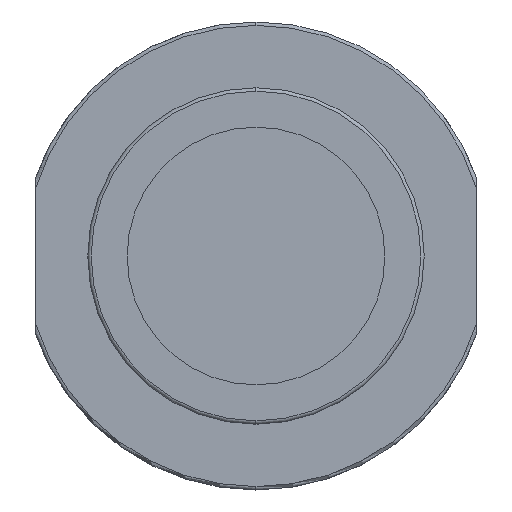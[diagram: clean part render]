
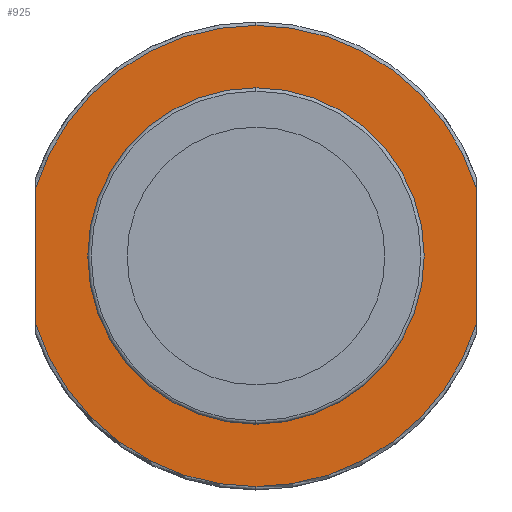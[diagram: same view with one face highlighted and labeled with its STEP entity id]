
A CAD part, left-side view. The second image highlights one B-rep face of the part: STEP entity #925.
In plain terms, the highlighted planar face has unit normal (-1, 0, 0).
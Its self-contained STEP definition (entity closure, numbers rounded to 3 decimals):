
#28 = EDGE_CURVE ( 'NONE', #196, #941, #1164, .T. ) ;
#38 = CIRCLE ( 'NONE', #156, 34. ) ;
#61 = DIRECTION ( 'NONE',  ( 0., 1., 0. ) ) ;
#93 = EDGE_CURVE ( 'NONE', #1160, #915, #405, .T. ) ;
#96 = DIRECTION ( 'NONE',  ( 0., 1., 0. ) ) ;
#106 = CARTESIAN_POINT ( 'NONE',  ( 40., 0., 0. ) ) ;
#138 = DIRECTION ( 'NONE',  ( 0., 0., 1. ) ) ;
#156 = AXIS2_PLACEMENT_3D ( 'NONE', #1676, #524, #96 ) ;
#196 = VERTEX_POINT ( 'NONE', #214 ) ;
#206 = ORIENTED_EDGE ( 'NONE', *, *, #93, .F. ) ;
#214 = CARTESIAN_POINT ( 'NONE',  ( 40., 24.8, 0. ) ) ;
#216 = CARTESIAN_POINT ( 'NONE',  ( 40., 0., 0. ) ) ;
#233 = VERTEX_POINT ( 'NONE', #1763 ) ;
#276 = CARTESIAN_POINT ( 'NONE',  ( 40., 0., -34. ) ) ;
#303 = DIRECTION ( 'NONE',  ( 1., 0., 0. ) ) ;
#307 = EDGE_CURVE ( 'NONE', #941, #196, #1057, .T. ) ;
#385 = DIRECTION ( 'NONE',  ( 1., 0., 0. ) ) ;
#405 = CIRCLE ( 'NONE', #1137, 34. ) ;
#406 = VERTEX_POINT ( 'NONE', #1064 ) ;
#409 = CARTESIAN_POINT ( 'NONE',  ( 40., -32.5, -9.987 ) ) ;
#413 = ORIENTED_EDGE ( 'NONE', *, *, #1395, .T. ) ;
#429 = CARTESIAN_POINT ( 'NONE',  ( 40., 0., 0. ) ) ;
#433 = EDGE_CURVE ( 'NONE', #915, #406, #38, .T. ) ;
#441 = DIRECTION ( 'NONE',  ( 0., 1., 0. ) ) ;
#460 = VERTEX_POINT ( 'NONE', #1097 ) ;
#481 = VECTOR ( 'NONE', #800, 1000. ) ;
#524 = DIRECTION ( 'NONE',  ( 1., 0., 0. ) ) ;
#530 = FACE_BOUND ( 'NONE', #1795, .T. ) ;
#543 = EDGE_CURVE ( 'NONE', #460, #770, #1392, .T. ) ;
#561 = PLANE ( 'NONE',  #1793 ) ;
#563 = CARTESIAN_POINT ( 'NONE',  ( 40., 29.4, 0. ) ) ;
#590 = EDGE_LOOP ( 'NONE', ( #1548, #1523, #1508, #413, #1768, #206 ) ) ;
#593 = LINE ( 'NONE', #727, #1304 ) ;
#598 = DIRECTION ( 'NONE',  ( 1., 0., 0. ) ) ;
#648 = CARTESIAN_POINT ( 'NONE',  ( 40., -32.5, 9.987 ) ) ;
#679 = AXIS2_PLACEMENT_3D ( 'NONE', #429, #303, #441 ) ;
#716 = EDGE_CURVE ( 'NONE', #1160, #770, #1343, .T. ) ;
#727 = CARTESIAN_POINT ( 'NONE',  ( 40., 32.5, 0. ) ) ;
#770 = VERTEX_POINT ( 'NONE', #648 ) ;
#800 = DIRECTION ( 'NONE',  ( 0., 0., 1. ) ) ;
#881 = DIRECTION ( 'NONE',  ( 0., 0., -1. ) ) ;
#915 = VERTEX_POINT ( 'NONE', #276 ) ;
#925 = ADVANCED_FACE ( 'NONE', ( #1100, #530 ), #561, .T. ) ;
#941 = VERTEX_POINT ( 'NONE', #1128 ) ;
#949 = CARTESIAN_POINT ( 'NONE',  ( 40., -32.5, 0. ) ) ;
#989 = AXIS2_PLACEMENT_3D ( 'NONE', #106, #385, #1095 ) ;
#1057 = CIRCLE ( 'NONE', #1532, 24.8 ) ;
#1058 = DIRECTION ( 'NONE',  ( 1., 0., 0. ) ) ;
#1064 = CARTESIAN_POINT ( 'NONE',  ( 40., 32.5, -9.987 ) ) ;
#1068 = ORIENTED_EDGE ( 'NONE', *, *, #307, .T. ) ;
#1095 = DIRECTION ( 'NONE',  ( 0., 1., 0. ) ) ;
#1097 = CARTESIAN_POINT ( 'NONE',  ( 40., 0., 34. ) ) ;
#1100 = FACE_OUTER_BOUND ( 'NONE', #590, .T. ) ;
#1113 = AXIS2_PLACEMENT_3D ( 'NONE', #1303, #1442, #1740 ) ;
#1128 = CARTESIAN_POINT ( 'NONE',  ( 40., -24.8, 0. ) ) ;
#1137 = AXIS2_PLACEMENT_3D ( 'NONE', #1318, #598, #1177 ) ;
#1160 = VERTEX_POINT ( 'NONE', #409 ) ;
#1164 = CIRCLE ( 'NONE', #679, 24.8 ) ;
#1177 = DIRECTION ( 'NONE',  ( 0., 1., 0. ) ) ;
#1303 = CARTESIAN_POINT ( 'NONE',  ( 40., 0., 0. ) ) ;
#1304 = VECTOR ( 'NONE', #881, 1000. ) ;
#1318 = CARTESIAN_POINT ( 'NONE',  ( 40., 0., 0. ) ) ;
#1343 = LINE ( 'NONE', #949, #481 ) ;
#1392 = CIRCLE ( 'NONE', #1113, 34. ) ;
#1393 = CIRCLE ( 'NONE', #989, 34. ) ;
#1395 = EDGE_CURVE ( 'NONE', #233, #406, #593, .T. ) ;
#1442 = DIRECTION ( 'NONE',  ( 1., 0., 0. ) ) ;
#1508 = ORIENTED_EDGE ( 'NONE', *, *, #1603, .F. ) ;
#1523 = ORIENTED_EDGE ( 'NONE', *, *, #543, .F. ) ;
#1532 = AXIS2_PLACEMENT_3D ( 'NONE', #216, #1058, #61 ) ;
#1548 = ORIENTED_EDGE ( 'NONE', *, *, #716, .T. ) ;
#1552 = DIRECTION ( 'NONE',  ( -1., 0., 0. ) ) ;
#1603 = EDGE_CURVE ( 'NONE', #233, #460, #1393, .T. ) ;
#1644 = ORIENTED_EDGE ( 'NONE', *, *, #28, .T. ) ;
#1676 = CARTESIAN_POINT ( 'NONE',  ( 40., 0., 0. ) ) ;
#1740 = DIRECTION ( 'NONE',  ( 0., 1., 0. ) ) ;
#1763 = CARTESIAN_POINT ( 'NONE',  ( 40., 32.5, 9.987 ) ) ;
#1768 = ORIENTED_EDGE ( 'NONE', *, *, #433, .F. ) ;
#1793 = AXIS2_PLACEMENT_3D ( 'NONE', #563, #1552, #138 ) ;
#1795 = EDGE_LOOP ( 'NONE', ( #1644, #1068 ) ) ;
